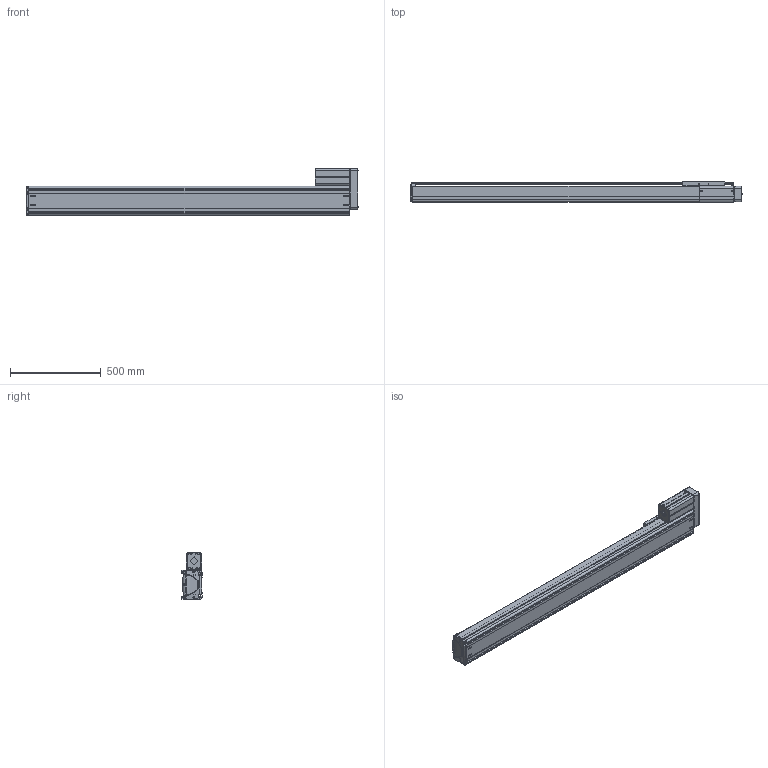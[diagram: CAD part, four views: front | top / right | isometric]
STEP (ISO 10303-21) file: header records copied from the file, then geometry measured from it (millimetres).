
FILE_DESCRIPTION((''),'2;1');
FILE_NAME('BE50F-UR-L_B-E5_IGS_PRT','2017-06-18T',(' '),(''),'PRO/ENGINEER BY PARAMETRIC TECHNOLOGY CORPORATION, 2015030','PRO/ENGINEER BY PARAMETRIC TECHNOLOGY CORPORATION, 2015030','');
FILE_SCHEMA(('CONFIG_CONTROL_DESIGN'));
Length unit declared in the file: millimetre
Products named in the file (1): BE50F-UR-L_B-E5_IGS_PRT
Bounding box: 1825.88 x 110 x 257 mm (x, y, z)
Volume: 7095588.4 mm3; surface area: 3003199.9 mm2
Topology: 7 solids, 167 shells, 2388 faces, 6594 edges, 4329 vertices
Faces by surface type: cylinder 1072, plane 1022, cone 155, torus 59, bspline 48, sphere 32
Entity records: 80168 total; most frequent: CARTESIAN_POINT 18740, DIRECTION 12761, ORIENTED_EDGE 12511, EDGE_CURVE 6548, AXIS2_PLACEMENT_3D 4585, VERTEX_POINT 4325, VECTOR 3591, LINE 3591
